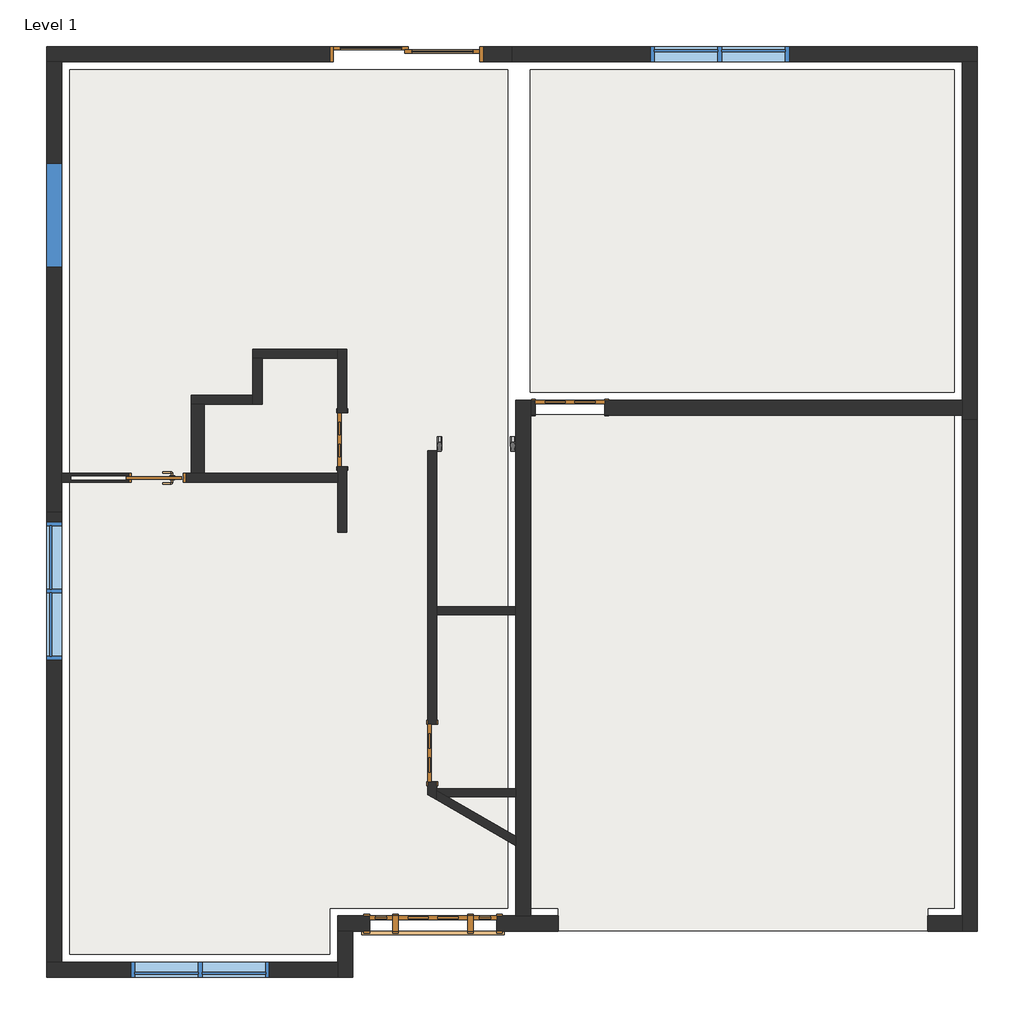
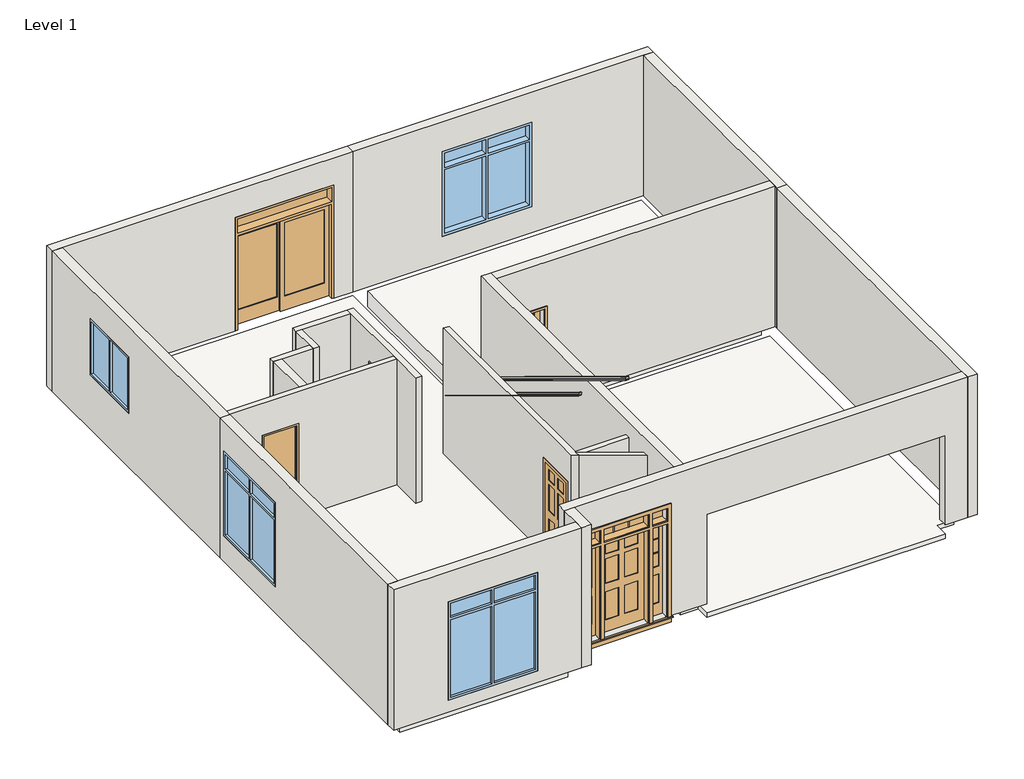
# One storey: 21 walls, 6 doors, 4 windows, 3 slabs, 2 railings.
"""IFC4 building model written with IfcOpenShell, lengths in millimetres."""

from ifc_helpers import new_model, si_unit, frame, origin, origin_with_axes, place, context, project, spatial, polyline, outline, extrude, faceted_brep, transform, mapped, element, save
from components import door_07468d71, door_5892309e, door_cd275a14, door_c37b41b1, door_884c993c, patio_tr_670d378e, handrail_d026e52b, handrail_21766647, window_10758067, window_7a97fd41, window_b39aa827

model = new_model("IFC4")

# Units and contexts
model_context = context("Model", 3, world=origin())
ifc_project = project(units=[si_unit("LENGTHUNIT", "METRE", prefix="MILLI")], contexts=[model_context])

# Site, building, storey
site = spatial("IfcSite", under=ifc_project)
building = spatial("IfcBuilding", under=site)
storey = spatial("IfcBuildingStorey", under=building, Name="Level 1", Elevation=0.0)

# Doors
placement = place(None, origin())
door_shape = door_07468d71(model_context)
element("IfcDoor", 1, ObjectType="Entry_Single_SL_TR : 36\" x 80\"", at=placement, inside=storey, context=model_context, shape_type="MappedRepresentation", body=[
    mapped(door_shape, transform((-10209.3413349, 2477.420971, 0.0), x_axis=(1.0, 0.0, 0.0), y_axis=(0.0, 1.0, 0.0), z_axis=(0.0, 0.0, 1.0))),
])
door_2_shape = door_5892309e(model_context)
element("IfcDoor", 2, ObjectType="Entry_Single : 3'-0\" x 6'-8\"", at=placement, inside=storey, context=model_context, shape_type="MappedRepresentation", body=[
    mapped(door_2_shape, transform((-8401.1788349, 9287.002221, 0.0), x_axis=(1.0, 0.0, 0.0), y_axis=(0.0, 1.0, 0.0), z_axis=(0.0, 0.0, 1.0))),
])
door_3_shape = door_cd275a14(model_context)
element("IfcDoor", 3, ObjectType="INT_Pocket Slider : 2'-6\" x 6'-8\"", at=placement, inside=storey, context=model_context, shape_type="MappedRepresentation", body=[
    mapped(door_3_shape, transform((-13846.3038349, 8359.902221, 0.0), x_axis=(1.0, 0.0, 0.0), y_axis=(0.0, 1.0, 0.0), z_axis=(0.0, 0.0, 1.0))),
])
door_4_shape = door_c37b41b1(model_context)
element("IfcDoor", 4, ObjectType="INT_Single : 2'-4\" x 6'-8\"", at=placement, inside=storey, context=model_context, shape_type="MappedRepresentation", body=[
    mapped(door_4_shape, transform((-11409.4913349, 8864.727221, 0.0), x_axis=(0.0, -1.0, 0.0), y_axis=(1.0, 0.0, 0.0), z_axis=(0.0, 0.0, 1.0))),
])
door_5_shape = door_884c993c(model_context)
element("IfcDoor", 5, ObjectType="INT_Single : 2'-6\" x 6'-8\"", at=placement, inside=storey, context=model_context, shape_type="MappedRepresentation", body=[
    mapped(door_5_shape, transform((-10222.0413349, 4727.1524983, 0.0), x_axis=(0.0, -1.0, 0.0), y_axis=(1.0, 0.0, 0.0), z_axis=(0.0, 0.0, 1.0))),
])
patio_tr_shape = patio_tr_670d378e(model_context)
element("IfcDoor", 6, ObjectType="Patio_TR : 6'-0\" x 6'-8\" w/ 1'-0\" TR", at=placement, inside=storey, context=model_context, shape_type="MappedRepresentation", body=[
    mapped(patio_tr_shape, transform((-10558.5913349, 13950.283471, 0.0), x_axis=(1.0, 0.0, 0.0), y_axis=(0.0, 1.0, 0.0), z_axis=(0.0, 0.0, 1.0))),
])

# Railings
handrail_shape = handrail_d026e52b(model_context)
element("IfcRailing", 7, ObjectType="Handrail", at=placement, inside=storey, context=model_context, shape_type="MappedRepresentation", body=[
    mapped(handrail_shape, transform((0.0, 0.0, 0.0), x_axis=(1.0, 0.0, 0.0), y_axis=(0.0, 1.0, 0.0), z_axis=(0.0, 0.0, 1.0))),
])
handrail_2_shape = handrail_21766647(model_context)
element("IfcRailing", 8, ObjectType="Handrail", at=placement, inside=storey, context=model_context, shape_type="MappedRepresentation", body=[
    mapped(handrail_2_shape, transform((0.0, 0.0, 0.0), x_axis=(1.0, 0.0, 0.0), y_axis=(0.0, 1.0, 0.0), z_axis=(0.0, 0.0, 1.0))),
])

# Slabs
element("IfcSlab", 9, ObjectType="4\" Foundation Slab", at=placement, inside=storey, context=model_context, shape_type="Brep", body=[
    faceted_brep([(-8558.3413349, 2683.002221, -298.4631707), (-8926.6413349, 2683.002221, -298.4631707), (-8926.6413349, 9191.752221, -273.0507744), (-3332.2913349, 9191.752221, -273.0507744), (-3332.2913349, 2683.002221, -298.4631707), (-3681.5413349, 2683.002221, -298.4631707), (-3681.5413349, 2384.552221, -299.628422), (-8558.3413349, 2384.552221, -299.628422), (-8558.3413349, 2683.002221, -196.8623963), (-8558.3413349, 2384.552221, -198.0276476), (-3681.5413349, 2384.552221, -198.0276476), (-3681.5413349, 2683.002221, -196.8623963), (-3332.2913349, 2683.002221, -196.8623963), (-3332.2913349, 9191.752221, -171.45), (-8926.6413349, 9191.752221, -171.45), (-8926.6413349, 2683.002221, -196.8623963)], [[[0, 1, 2, 3, 4, 5, 6, 7]], [[8, 9, 10, 11, 12, 13, 14, 15]], [[1, 0, 8, 15]], [[2, 1, 15, 14]], [[3, 2, 14, 13]], [[4, 3, 13, 12]], [[5, 4, 12, 11]], [[6, 5, 11, 10]], [[7, 6, 10, 9]], [[0, 7, 9, 8]]]),
])
element("IfcSlab", 10, ObjectType="FLR_1200_02", at=placement, inside=storey, context=model_context, shape_type="SweptSolid", body=[
    extrude(outline(polyline([(-15003.5913349, 13744.702221), (-9225.0913349, 13744.702221), (-9225.0913349, 2683.002221), (-11574.5913349, 2683.002221), (-11574.5913349, 2073.402221), (-15003.5913349, 2073.402221), (-15003.5913349, 13744.702221)])), frame((0.0, 0.0, -333.375), z_axis=(0.0, 0.0, 1.0), x_axis=(1.0, 0.0, 0.0)), (0.0, 0.0, 1.0), 333.375),
])
element("IfcSlab", 11, ObjectType="FLR_1200_02", at=placement, inside=storey, context=model_context, shape_type="SweptSolid", body=[
    extrude(outline(polyline([(-8926.6413349, 13744.702221), (-3332.2913349, 13744.702221), (-3332.2913349, 9490.202221), (-8926.6413349, 9490.202221), (-8926.6413349, 13744.702221)])), frame((0.0, 0.0, -333.375), z_axis=(0.0, 0.0, 1.0), x_axis=(1.0, 0.0, 0.0)), (0.0, 0.0, 1.0), 333.375),
])

# Walls
element("IfcWall", 12, ObjectType="EXT_550_Gyp_01a", at=placement, inside=storey, context=model_context, shape_type="Brep", body=[
    faceted_brep([(-8923.4663349, 2578.227221, 0.0), (-8923.4663349, 9188.577221, 0.0), (-8923.4663349, 9385.427221, 0.0), (-8923.4663349, 9385.427221, 3032.125), (-8923.4663349, 9188.577221, 3032.125), (-8923.4663349, 2578.227221, 3032.125), (-9120.3163349, 2578.227221, 0.0), (-9120.3163349, 2578.227221, 3032.125), (-9120.3163349, 9385.427221, 3032.125), (-9120.3163349, 9385.427221, 0.0), (-8964.7413349, 2578.227221, 0.0), (-8964.7413349, 9385.427221, 0.0)], [[[0, 1, 2, 3, 4, 5]], [[6, 7, 8, 9]], [[5, 4, 3, 8, 7]], [[10, 6, 9, 11]], [[2, 1, 0, 10, 11]], [[3, 2, 11, 9, 8]], [[0, 5, 7, 6, 10]]]),
])
element("IfcWall", 13, ObjectType="EXT_550_Gyp_01a", at=placement, inside=storey, context=model_context, shape_type="Brep", body=[
    faceted_brep([(-3227.5163349, 9188.577221, 3032.125), (-8923.4663349, 9188.577221, 3032.125), (-8923.4663349, 9188.577221, 0.0), (-8858.3788349, 9188.577221, 0.0), (-8858.3788349, 9188.577221, 2032.0), (-7943.9788349, 9188.577221, 2032.0), (-7943.9788349, 9188.577221, 0.0), (-3227.5163349, 9188.577221, 0.0), (-8923.4663349, 9385.427221, 3032.125), (-3227.5163349, 9385.427221, 3032.125), (-3227.5163349, 9385.427221, 0.0), (-7943.9788349, 9385.427221, 0.0), (-7943.9788349, 9385.427221, 2032.0), (-8858.3788349, 9385.427221, 2032.0), (-8858.3788349, 9385.427221, 0.0), (-8923.4663349, 9385.427221, 0.0), (-8923.4663349, 9229.852221, 0.0), (-8858.3788349, 9229.852221, 0.0), (-3227.5163349, 9229.852221, 0.0), (-7943.9788349, 9229.852221, 0.0)], [[[0, 1, 2, 3, 4, 5, 6, 7]], [[8, 9, 10, 11, 12, 13, 14, 15]], [[1, 0, 9, 8]], [[16, 15, 14, 17]], [[10, 18, 19, 11]], [[2, 16, 17, 3]], [[18, 7, 6, 19]], [[2, 1, 8, 15, 16]], [[0, 7, 18, 10, 9]], [[5, 12, 11, 19, 6]], [[12, 5, 4, 13]], [[13, 4, 3, 17, 14]]]),
])
element("IfcWall", 14, ObjectType="EXT_550_Siding_01", at=placement, inside=storey, context=model_context, shape_type="Brep", body=[
    faceted_brep([(-9167.9413349, 13849.477221, 0.0), (-9167.9413349, 13849.477221, 3032.125), (-15108.3663349, 13849.477221, 3032.125), (-15309.9788349, 13849.477221, 3032.125), (-15309.9788349, 13849.477221, 0.0), (-15108.3663349, 13849.477221, 0.0), (-11574.5913349, 13849.477221, 0.0), (-11574.5913349, 13849.477221, 2451.1), (-9542.5913349, 13849.477221, 2451.1), (-9542.5913349, 13849.477221, 0.0), (-9167.9413349, 14051.089721, 3032.125), (-9167.9413349, 14051.089721, 0.0), (-9542.5913349, 14051.089721, 0.0), (-9542.5913349, 14051.089721, 2451.1), (-11574.5913349, 14051.089721, 2451.1), (-11574.5913349, 14051.089721, 0.0), (-15309.9788349, 14051.089721, 0.0), (-15309.9788349, 14051.089721, 3032.125), (-9167.9413349, 14005.052221, 0.0), (-15309.9788349, 14005.052221, 0.0), (-11574.5913349, 14005.052221, 0.0), (-9542.5913349, 14005.052221, 0.0)], [[[0, 1, 2, 3, 4, 5, 6, 7, 8, 9]], [[10, 11, 12, 13, 14, 15, 16, 17]], [[1, 0, 18, 11, 10]], [[3, 2, 1, 10, 17]], [[4, 19, 20, 6, 5]], [[18, 0, 9, 21]], [[4, 3, 17, 16, 19]], [[19, 16, 15, 20]], [[11, 18, 21, 12]], [[8, 13, 12, 21, 9]], [[13, 8, 7, 14]], [[14, 7, 6, 20, 15]]]),
])
element("IfcWall", 15, ObjectType="EXT_550_Siding_01", at=placement, inside=storey, context=model_context, shape_type="Brep", body=[
    faceted_brep([(-3227.5163349, 13849.477221, 0.0), (-3227.5163349, 9385.427221, 0.0), (-3227.5163349, 9188.577221, 0.0), (-3227.5163349, 9126.9127774, 0.0), (-3227.5163349, 9126.9127774, 3032.125), (-3227.5163349, 9188.577221, 3032.125), (-3227.5163349, 9385.427221, 3032.125), (-3227.5163349, 13849.477221, 3032.125), (-3025.9038349, 13849.477221, 0.0), (-3025.9038349, 13849.477221, 3032.125), (-3025.9038349, 9126.9127774, 3032.125), (-3025.9038349, 9126.9127774, 0.0), (-3071.9413349, 9126.9127774, 0.0), (-3071.9413349, 13849.477221, 0.0)], [[[0, 1, 2, 3, 4, 5, 6, 7]], [[8, 9, 10, 11]], [[4, 3, 12, 11, 10]], [[7, 6, 5, 4, 10, 9]], [[0, 7, 9, 8, 13]], [[3, 2, 1, 0, 13, 12]], [[13, 8, 11, 12]]]),
])
element("IfcWall", 16, ObjectType="EXT_550_Siding_01", at=placement, inside=storey, context=model_context, shape_type="Brep", body=[
    faceted_brep([(-11469.8163349, 2578.227221, 3032.125), (-9120.3163349, 2578.227221, 3032.125), (-8923.4663349, 2578.227221, 3032.125), (-3227.5163349, 2578.227221, 3032.125), (-3227.5163349, 2578.227221, 0.0), (-3681.5413349, 2578.227221, 0.0), (-3681.5413349, 2578.227221, 1936.6384334), (-8558.3413349, 2578.227221, 1936.6384334), (-8558.3413349, 2578.227221, 0.0), (-8923.4663349, 2578.227221, 0.0), (-9120.3163349, 2578.227221, 0.0), (-9371.1413349, 2578.227221, 0.0), (-9371.1413349, 2578.227221, 2362.2), (-11047.5413349, 2578.227221, 2362.2), (-11047.5413349, 2578.227221, 0.0), (-11469.8163349, 2578.227221, 0.0), (-3227.5163349, 2376.614721, 3032.125), (-11268.2038349, 2376.614721, 3032.125), (-11469.8163349, 2376.614721, 3032.125), (-11469.8163349, 2376.614721, 0.0), (-11268.2038349, 2376.614721, 0.0), (-11047.5413349, 2376.614721, 0.0), (-11047.5413349, 2376.614721, 2362.2), (-9371.1413349, 2376.614721, 2362.2), (-9371.1413349, 2376.614721, 0.0), (-8558.3413349, 2376.614721, 0.0), (-8558.3413349, 2376.614721, 1936.6384334), (-3681.5413349, 2376.614721, 1936.6384334), (-3681.5413349, 2376.614721, 0.0), (-3227.5163349, 2376.614721, 0.0), (-3227.5163349, 2422.652221, 0.0), (-11469.8163349, 2422.652221, 0.0), (-11047.5413349, 2422.652221, 0.0), (-3681.5413349, 2422.652221, 0.0), (-8558.3413349, 2422.652221, 0.0), (-9371.1413349, 2422.652221, 0.0)], [[[0, 1, 2, 3, 4, 5, 6, 7, 8, 9, 10, 11, 12, 13, 14, 15]], [[16, 17, 18, 19, 20, 21, 22, 23, 24, 25, 26, 27, 28, 29]], [[3, 2, 1, 0, 18, 17, 16]], [[4, 3, 16, 29, 30]], [[0, 15, 31, 19, 18]], [[31, 15, 14, 32]], [[4, 30, 33, 5]], [[8, 34, 35, 11, 10, 9]], [[19, 31, 32, 21, 20]], [[30, 29, 28, 33]], [[34, 25, 24, 35]], [[8, 7, 26, 25, 34]], [[6, 5, 33, 28, 27]], [[6, 27, 26, 7]], [[23, 12, 11, 35, 24]], [[12, 23, 22, 13]], [[13, 22, 21, 32, 14]]]),
])
element("IfcWall", 17, ObjectType="EXT_550_Siding_01", at=placement, inside=storey, context=model_context, shape_type="Brep", body=[
    faceted_brep([(-11469.8163349, 2376.614721, 0.0), (-11469.8163349, 1968.627221, 0.0), (-11469.8163349, 1767.014721, 0.0), (-11469.8163349, 1767.014721, 3032.125), (-11469.8163349, 1968.627221, 3032.125), (-11469.8163349, 2376.614721, 3032.125), (-11268.2038349, 2376.614721, 0.0), (-11268.2038349, 2376.614721, 3032.125), (-11268.2038349, 1767.014721, 3032.125), (-11268.2038349, 1767.014721, 0.0), (-11314.2413349, 2376.614721, 0.0), (-11314.2413349, 1767.014721, 0.0)], [[[0, 1, 2, 3, 4, 5]], [[6, 7, 8, 9]], [[5, 4, 3, 8, 7]], [[0, 5, 7, 6, 10]], [[3, 2, 11, 9, 8]], [[2, 1, 0, 10, 11]], [[10, 6, 9, 11]]]),
])
element("IfcWall", 18, ObjectType="EXT_550_Siding_01", at=placement, inside=storey, context=model_context, shape_type="Brep", body=[
    faceted_brep([(-11469.8163349, 1968.627221, 0.0), (-15108.3663349, 1968.627221, 0.0), (-15309.9788349, 1968.627221, 0.0), (-15309.9788349, 1968.627221, 3032.125), (-15108.3663349, 1968.627221, 3032.125), (-11469.8163349, 1968.627221, 3032.125), (-14197.1413349, 1968.627221, 2387.6), (-14197.1413349, 1968.627221, 254.0), (-12368.3413349, 1968.627221, 254.0), (-12368.3413349, 1968.627221, 2387.6), (-11469.8163349, 1767.014721, 3032.125), (-15309.9788349, 1767.014721, 3032.125), (-15309.9788349, 1767.014721, 0.0), (-11469.8163349, 1767.014721, 0.0), (-14197.1413349, 1767.014721, 254.0), (-14197.1413349, 1767.014721, 2387.6), (-12368.3413349, 1767.014721, 2387.6), (-12368.3413349, 1767.014721, 254.0), (-11469.8163349, 1813.052221, 0.0), (-15309.9788349, 1813.052221, 0.0)], [[[0, 1, 2, 3, 4, 5], [6, 7, 8, 9]], [[10, 11, 12, 13], [14, 15, 16, 17]], [[5, 4, 3, 11, 10]], [[0, 5, 10, 13, 18]], [[3, 2, 19, 12, 11]], [[2, 1, 0, 18, 19]], [[18, 13, 12, 19]], [[6, 15, 14, 7]], [[7, 14, 17, 8]], [[8, 17, 16, 9]], [[15, 6, 9, 16]]]),
])
element("IfcWall", 19, ObjectType="EXT_550_Siding_01", at=placement, inside=storey, context=model_context, shape_type="Brep", body=[
    faceted_brep([(-15108.3663349, 1968.627221, 0.0), (-15108.3663349, 7907.7127774, 0.0), (-15108.3663349, 7907.7127774, 3032.125), (-15108.3663349, 1968.627221, 3032.125), (-15108.3663349, 5951.9127774, 2387.6), (-15108.3663349, 7780.7127774, 2387.6), (-15108.3663349, 7780.7127774, 558.8), (-15108.3663349, 5951.9127774, 558.8), (-15309.9788349, 1968.627221, 0.0), (-15309.9788349, 1968.627221, 3032.125), (-15309.9788349, 7907.7127774, 3032.125), (-15309.9788349, 7907.7127774, 0.0), (-15309.9788349, 5951.9127774, 2387.6), (-15309.9788349, 5951.9127774, 558.8), (-15309.9788349, 7780.7127774, 558.8), (-15309.9788349, 7780.7127774, 2387.6), (-15263.9413349, 7907.7127774, 0.0), (-15263.9413349, 1968.627221, 0.0)], [[[0, 1, 2, 3], [4, 5, 6, 7]], [[8, 9, 10, 11], [12, 13, 14, 15]], [[2, 1, 16, 11, 10]], [[3, 2, 10, 9]], [[0, 3, 9, 8, 17]], [[1, 0, 17, 16]], [[17, 8, 11, 16]], [[13, 12, 4, 7]], [[14, 13, 7, 6]], [[15, 14, 6, 5]], [[12, 15, 5, 4]]]),
])
element("IfcWall", 20, ObjectType="EXT_550_Siding_01", at=placement, inside=storey, context=model_context, shape_type="Brep", body=[
    faceted_brep([(-9167.9413349, 13849.477221, 0.0), (-3227.5163349, 13849.477221, 0.0), (-3025.9038349, 13849.477221, 0.0), (-3025.9038349, 13849.477221, 3032.125), (-3227.5163349, 13849.477221, 3032.125), (-9167.9413349, 13849.477221, 3032.125), (-7339.1413349, 13849.477221, 2387.6), (-5510.3413349, 13849.477221, 2387.6), (-5510.3413349, 13849.477221, 558.8), (-7339.1413349, 13849.477221, 558.8), (-9167.9413349, 14051.089721, 0.0), (-9167.9413349, 14051.089721, 3032.125), (-3025.9038349, 14051.089721, 3032.125), (-3025.9038349, 14051.089721, 0.0), (-7339.1413349, 14051.089721, 2387.6), (-7339.1413349, 14051.089721, 558.8), (-5510.3413349, 14051.089721, 558.8), (-5510.3413349, 14051.089721, 2387.6), (-9167.9413349, 14005.052221, 0.0), (-3025.9038349, 14005.052221, 0.0)], [[[0, 1, 2, 3, 4, 5], [6, 7, 8, 9]], [[10, 11, 12, 13], [14, 15, 16, 17]], [[5, 4, 3, 12, 11]], [[0, 5, 11, 10, 18]], [[3, 2, 19, 13, 12]], [[2, 1, 0, 18, 19]], [[18, 10, 13, 19]], [[14, 17, 7, 6]], [[17, 16, 8, 7]], [[16, 15, 9, 8]], [[15, 14, 6, 9]]]),
])
element("IfcWall", 21, ObjectType="EXT_550_Siding_01", at=placement, inside=storey, context=model_context, shape_type="Brep", body=[
    faceted_brep([(-15108.3663349, 7907.7127774, 0.0), (-15108.3663349, 13849.477221, 0.0), (-15108.3663349, 13849.477221, 3032.125), (-15108.3663349, 7907.7127774, 3032.125), (-15108.3663349, 11139.5789658, 2387.6), (-15108.3663349, 12511.1789658, 2387.6), (-15108.3663349, 12511.1789658, 1168.4), (-15108.3663349, 11139.5789658, 1168.4), (-15309.9788349, 7907.7127774, 0.0), (-15309.9788349, 7907.7127774, 3032.125), (-15309.9788349, 13849.477221, 3032.125), (-15309.9788349, 13849.477221, 0.0), (-15309.9788349, 11139.5789658, 2387.6), (-15309.9788349, 11139.5789658, 1168.4), (-15309.9788349, 12511.1789658, 1168.4), (-15309.9788349, 12511.1789658, 2387.6), (-15263.9413349, 7907.7127774, 0.0), (-15263.9413349, 13849.477221, 0.0)], [[[0, 1, 2, 3], [4, 5, 6, 7]], [[8, 9, 10, 11], [12, 13, 14, 15]], [[3, 2, 10, 9]], [[0, 3, 9, 8, 16]], [[1, 0, 16, 17]], [[2, 1, 17, 11, 10]], [[12, 15, 5, 4]], [[15, 14, 6, 5]], [[14, 13, 7, 6]], [[13, 12, 4, 7]], [[16, 8, 11, 17]]]),
])
element("IfcWall", 22, ObjectType="EXT_550_Siding_01", at=placement, inside=storey, context=model_context, shape_type="Brep", body=[
    faceted_brep([(-3227.5163349, 9126.9127774, 0.0), (-3227.5163349, 2578.227221, 0.0), (-3227.5163349, 2376.614721, 0.0), (-3227.5163349, 2376.614721, 3032.125), (-3227.5163349, 2578.227221, 3032.125), (-3227.5163349, 9126.9127774, 3032.125), (-3025.9038349, 9126.9127774, 0.0), (-3025.9038349, 9126.9127774, 3032.125), (-3025.9038349, 2376.614721, 3032.125), (-3025.9038349, 2376.614721, 0.0), (-3071.9413349, 9126.9127774, 0.0), (-3071.9413349, 2376.614721, 0.0)], [[[0, 1, 2, 3, 4, 5]], [[6, 7, 8, 9]], [[5, 4, 3, 8, 7]], [[0, 5, 7, 6, 10]], [[3, 2, 11, 9, 8]], [[2, 1, 0, 10, 11]], [[10, 6, 9, 11]]]),
])
element("IfcWall", 23, ObjectType="INT_350_Gyp_01", at=placement, inside=storey, context=model_context, shape_type="Brep", body=[
    faceted_brep([(-11469.8163349, 8299.577221, 2714.625), (-15108.3663349, 8299.577221, 2714.625), (-15108.3663349, 8299.577221, 0.0), (-14227.3038349, 8299.577221, 0.0), (-14227.3038349, 8299.577221, 2032.0), (-13465.3038349, 8299.577221, 2032.0), (-13465.3038349, 8299.577221, 0.0), (-11469.8163349, 8299.577221, 0.0), (-15108.3663349, 8420.227221, 2714.625), (-13400.2163349, 8420.227221, 2714.625), (-13228.7663349, 8420.227221, 2714.625), (-11469.8163349, 8420.227221, 2714.625), (-11469.8163349, 8420.227221, 0.0), (-13228.7663349, 8420.227221, 0.0), (-13400.2163349, 8420.227221, 0.0), (-13465.3038349, 8420.227221, 0.0), (-13465.3038349, 8420.227221, 2032.0), (-14227.3038349, 8420.227221, 2032.0), (-14227.3038349, 8420.227221, 0.0), (-15108.3663349, 8420.227221, 0.0), (-14227.3038349, 8389.152221, 0.0), (-14989.3038349, 8389.152221, 0.0), (-14989.3038349, 8330.652221, 0.0), (-14227.3038349, 8330.652221, 0.0), (-14989.3038349, 8389.152221, 2032.0), (-14227.3038349, 8389.152221, 2032.0), (-14227.3038349, 8330.652221, 2032.0), (-14989.3038349, 8330.652221, 2032.0)], [[[0, 1, 2, 3, 4, 5, 6, 7]], [[8, 9, 10, 11, 12, 13, 14, 15, 16, 17, 18, 19]], [[12, 7, 6, 15, 14, 13]], [[2, 19, 18, 20, 21, 22, 23, 3]], [[1, 0, 11, 10, 9, 8]], [[0, 7, 12, 11]], [[2, 1, 8, 19]], [[24, 25, 17, 16, 5, 4, 26, 27]], [[24, 27, 22, 21]], [[27, 26, 23, 22]], [[26, 4, 3, 23]], [[5, 16, 15, 6]], [[17, 25, 20, 18]], [[25, 24, 21, 20]]]),
])
element("IfcWall", 24, ObjectType="INT_350_Gyp_01", at=placement, inside=storey, context=model_context, shape_type="Brep", body=[
    faceted_brep([(-11349.1663349, 7639.177221, 0.0), (-11349.1663349, 8509.127221, 0.0), (-11349.1663349, 8509.127221, 2032.0), (-11349.1663349, 9220.327221, 2032.0), (-11349.1663349, 9220.327221, 0.0), (-11349.1663349, 10058.527221, 0.0), (-11349.1663349, 10058.527221, 2714.625), (-11349.1663349, 7639.177221, 2714.625), (-11469.8163349, 8509.127221, 2032.0), (-11469.8163349, 8509.127221, 0.0), (-11469.8163349, 8420.227221, 0.0), (-11469.8163349, 8299.577221, 0.0), (-11469.8163349, 7639.177221, 0.0), (-11469.8163349, 7639.177221, 2714.625), (-11469.8163349, 8299.577221, 2714.625), (-11469.8163349, 8420.227221, 2714.625), (-11469.8163349, 9937.877221, 2714.625), (-11469.8163349, 10058.527221, 2714.625), (-11469.8163349, 10058.527221, 0.0), (-11469.8163349, 9937.877221, 0.0), (-11469.8163349, 9220.327221, 0.0), (-11469.8163349, 9220.327221, 2032.0)], [[[0, 1, 2, 3, 4, 5, 6, 7]], [[8, 9, 10, 11, 12, 13, 14, 15, 16, 17, 18, 19, 20, 21]], [[20, 19, 18, 5, 4]], [[12, 11, 10, 9, 1, 0]], [[7, 6, 17, 16, 15, 14, 13]], [[0, 7, 13, 12]], [[6, 5, 18, 17]], [[2, 1, 9, 8]], [[3, 2, 8, 21]], [[4, 3, 21, 20]]]),
])
element("IfcWall", 25, ObjectType="INT_350_Gyp_01", at=placement, inside=storey, context=model_context, shape_type="Brep", body=[
    faceted_brep([(-11469.8163349, 10058.527221, 0.0), (-12587.4163349, 10058.527221, 0.0), (-12587.4163349, 10058.527221, 2714.625), (-11469.8163349, 10058.527221, 2714.625), (-11469.8163349, 9937.877221, 0.0), (-11469.8163349, 9937.877221, 2714.625), (-12466.7663349, 9937.877221, 2714.625), (-12587.4163349, 9937.877221, 2714.625), (-12587.4163349, 9937.877221, 0.0), (-12466.7663349, 9937.877221, 0.0)], [[[0, 1, 2, 3]], [[4, 5, 6, 7, 8, 9]], [[1, 0, 4, 9, 8]], [[3, 2, 7, 6, 5]], [[0, 3, 5, 4]], [[2, 1, 8, 7]]]),
])
element("IfcWall", 26, ObjectType="INT_350_Gyp_01", at=placement, inside=storey, context=model_context, shape_type="Brep", body=[
    faceted_brep([(-12587.4163349, 9937.877221, 0.0), (-12587.4163349, 9448.927221, 0.0), (-12587.4163349, 9328.277221, 0.0), (-12587.4163349, 9328.277221, 2714.625), (-12587.4163349, 9448.927221, 2714.625), (-12587.4163349, 9937.877221, 2714.625), (-12466.7663349, 9937.877221, 0.0), (-12466.7663349, 9937.877221, 2714.625), (-12466.7663349, 9328.277221, 2714.625), (-12466.7663349, 9328.277221, 0.0)], [[[0, 1, 2, 3, 4, 5]], [[6, 7, 8, 9]], [[2, 1, 0, 6, 9]], [[5, 4, 3, 8, 7]], [[0, 5, 7, 6]], [[3, 2, 9, 8]]]),
])
element("IfcWall", 27, ObjectType="INT_350_Gyp_01", at=placement, inside=storey, context=model_context, shape_type="Brep", body=[
    faceted_brep([(-12587.4163349, 9448.927221, 0.0), (-13400.2163349, 9448.927221, 0.0), (-13400.2163349, 9448.927221, 2714.625), (-12587.4163349, 9448.927221, 2714.625), (-12587.4163349, 9328.277221, 0.0), (-12587.4163349, 9328.277221, 2714.625), (-13228.7663349, 9328.277221, 2714.625), (-13400.2163349, 9328.277221, 2714.625), (-13400.2163349, 9328.277221, 0.0), (-13228.7663349, 9328.277221, 0.0)], [[[0, 1, 2, 3]], [[4, 5, 6, 7, 8, 9]], [[1, 0, 4, 9, 8]], [[3, 2, 7, 6, 5]], [[0, 3, 5, 4]], [[2, 1, 8, 7]]]),
])
element("IfcWall", 28, ObjectType="INT_350_Gyp_01", at=placement, inside=storey, context=model_context, shape_type="Brep", body=[
    faceted_brep([(-10282.3663349, 4346.1524983, 2032.0), (-10282.3663349, 4346.1524983, 0.0), (-10282.3663349, 4178.7867854, 0.0), (-10282.3663349, 4178.7867854, 2714.625), (-10282.3663349, 8718.677221, 2714.625), (-10282.3663349, 8718.677221, 0.0), (-10282.3663349, 5108.1524983, 0.0), (-10282.3663349, 5108.1524983, 2032.0), (-10161.7163349, 4109.1294754, 0.0), (-10161.7163349, 4230.1132244, 0.0), (-10161.7163349, 4255.1536599, 0.0), (-10161.7163349, 4346.1524983, 0.0), (-10161.7163349, 4346.1524983, 2032.0), (-10161.7163349, 5108.1524983, 2032.0), (-10161.7163349, 5108.1524983, 0.0), (-10161.7163349, 6554.914721, 0.0), (-10161.7163349, 6659.689721, 0.0), (-10161.7163349, 8718.677221, 0.0), (-10161.7163349, 8718.677221, 2714.625), (-10161.7163349, 4255.1536599, 2714.625), (-10161.7163349, 4230.1132244, 2714.625), (-10161.7163349, 4109.1294754, 2714.625)], [[[0, 1, 2, 3, 4, 5, 6, 7]], [[8, 9, 10, 11, 12, 13, 14, 15, 16, 17, 18, 19, 20, 21]], [[6, 5, 17, 16, 15, 14]], [[2, 1, 11, 10, 9, 8]], [[4, 3, 21, 20, 19, 18]], [[5, 4, 18, 17]], [[3, 2, 8, 21]], [[12, 11, 1, 0]], [[13, 12, 0, 7]], [[14, 13, 7, 6]]]),
])
element("IfcWall", 29, ObjectType="INT_350_Gyp_02", at=placement, inside=storey, context=model_context, shape_type="Brep", body=[
    faceted_brep([(-10161.7163349, 4109.1294754, 0.0), (-9120.3163349, 3507.8769051, 0.0), (-9120.3163349, 3507.8769051, 2714.625), (-10161.7163349, 4109.1294754, 2714.625), (-10161.7163349, 4230.1132244, 0.0), (-10161.7163349, 4230.1132244, 2714.625), (-10023.6120181, 4150.3786599, 2714.625), (-9120.3163349, 3628.860654, 2714.625), (-9120.3163349, 3628.860654, 0.0), (-10023.6120181, 4150.3786599, 0.0)], [[[0, 1, 2, 3]], [[4, 5, 6, 7, 8, 9]], [[1, 0, 4, 9, 8]], [[3, 2, 7, 6, 5]], [[0, 3, 5, 4]], [[2, 1, 8, 7]]]),
])
element("IfcWall", 30, ObjectType="INT_350_Gyp_02", at=placement, inside=storey, context=model_context, shape_type="SweptSolid", body=[
    extrude(outline(polyline([(-9120.3163349, 4150.3786599), (-10023.6120181, 4150.3786599), (-10161.7163349, 4230.1132244), (-10161.7163349, 4255.1536599), (-9120.3163349, 4255.1536599), (-9120.3163349, 4150.3786599)])), origin_with_axes(), (0.0, 0.0, 1.0), 2714.625),
])
element("IfcWall", 31, ObjectType="INT_350_Gyp_02", at=placement, inside=storey, context=model_context, shape_type="SweptSolid", body=[
    extrude(outline(polyline([(-9120.3163349, 6554.914721), (-10161.7163349, 6554.914721), (-10161.7163349, 6659.689721), (-9120.3163349, 6659.689721), (-9120.3163349, 6554.914721)])), origin_with_axes(), (0.0, 0.0, 1.0), 1219.2),
])
element("IfcWall", 32, ObjectType="INT_550_Gyp_01", at=placement, inside=storey, context=model_context, shape_type="SweptSolid", body=[
    extrude(outline(polyline([(-13228.7663349, 9328.277221), (-13228.7663349, 8420.227221), (-13400.2163349, 8420.227221), (-13400.2163349, 9328.277221), (-13228.7663349, 9328.277221)])), origin_with_axes(), (0.0, 0.0, 1.0), 2714.625),
])

# Windows
window_shape = window_10758067(model_context)
element("IfcWindow", 33, ObjectType="Fixed_2x1 : 4'-0\" x 4'-6\"", at=placement, inside=storey, context=model_context, shape_type="MappedRepresentation", body=[
    mapped(window_shape, transform((-15182.6150603, 11139.5789658, 101.6), x_axis=(0.0, -1.0, 0.0), y_axis=(1.0, 0.0, 0.0), z_axis=(0.0, 0.0, 1.0))),
])
window_2_shape = window_7a97fd41(model_context)
element("IfcWindow", 34, ObjectType="Fixed_2x2 : 5'-0\" x 6'-0\"", at=placement, inside=storey, context=model_context, shape_type="MappedRepresentation", body=[
    mapped(window_2_shape, transform((-15182.6150603, 6409.1127774, -347.0367551), x_axis=(0.0, -1.0, 0.0), y_axis=(1.0, 0.0, 0.0), z_axis=(0.0, 0.0, 1.0))),
])
element("IfcWindow", 35, ObjectType="Fixed_2x2 : 5'-0\" x 6'-0\"", at=placement, inside=storey, context=model_context, shape_type="MappedRepresentation", body=[
    mapped(window_2_shape, transform((-6881.9413349, 13923.7259463, -347.0367551), x_axis=(-1.0, 0.0, 0.0), y_axis=(0.0, -1.0, 0.0), z_axis=(0.0, 0.0, 1.0))),
])
window_3_shape = window_b39aa827(model_context)
element("IfcWindow", 36, ObjectType="Fixed_2x2 : 6'-0\" x 7'-0\"", at=placement, inside=storey, context=model_context, shape_type="MappedRepresentation", body=[
    mapped(window_3_shape, transform((-13739.9413349, 1894.3784956, -651.8367551), x_axis=(-1.0, 0.0, 0.0), y_axis=(0.0, -1.0, 0.0), z_axis=(0.0, 0.0, 1.0))),
])

save(model, "model.ifc")
